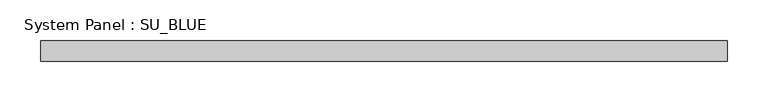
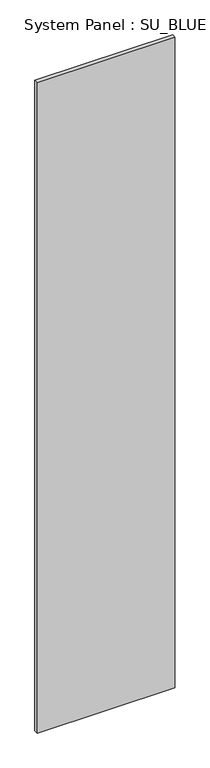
"""IFC4 building model written with IfcOpenShell, lengths in millimetres: plate geometry, System Panel : SU_BLUE."""

import ifcopenshell
import ifcopenshell.guid

model = None  # the IFC model being written
_history = None  # IfcOwnerHistory: only IFC2X3 demands one
_inside = {}  # id of a spatial element -> (the spatial element, [elements in it])
_under = {}  # id of a project, library or spatial element -> (it, [spatial elements below it])
_declared = {}  # id of a project -> (the project, [libraries it declares])
_typed = {}  # id of a type object -> (the type object, [elements of that type])
_made_of = {}  # id of a material, layer set ... -> (it, [elements and type objects made of it])


def new_model(schema):
    """Start an empty IFC model of exactly this schema.

    Asked for "IFC4X3", IfcOpenShell would pick the latest addendum, in which some entities
    have other attributes; the version numbers below select the first issue.
    IFC2X3 requires an IfcOwnerHistory on every rooted entity: one is made here for all.
    """
    global model, _history
    if schema == "IFC4X3":
        model = ifcopenshell.file(schema_version=(4, 3, 0, 0))
    else:
        model = ifcopenshell.file(schema=schema)
    _inside.clear()
    _under.clear()
    _declared.clear()
    _typed.clear()
    _made_of.clear()
    _history = None
    if model.schema == "IFC2X3":
        org = make("IfcOrganization", Name="unknown")
        user = make(
            "IfcPersonAndOrganization",
            ThePerson=make("IfcPerson", FamilyName="unknown"),
            TheOrganization=org,
        )
        app = make(
            "IfcApplication",
            ApplicationDeveloper=org,
            Version="unknown",
            ApplicationFullName="unknown",
            ApplicationIdentifier="unknown",
        )
        _history = make(
            "IfcOwnerHistory",
            OwningUser=user,
            OwningApplication=app,
            ChangeAction="ADDED",
            CreationDate=0,
        )
    return model


def make(cls, **values):
    """One entity of the class cls with the attributes given. An attribute that is None is left unset."""
    return model.create_entity(
        cls, **{name: value for name, value in values.items() if value is not None}
    )


def rooted(cls, **values):
    """An entity with a GlobalId (a new one), such as an element, a storey or a relation."""
    return make(cls, GlobalId=ifcopenshell.guid.new(), OwnerHistory=_history, **values)


def si_unit(unit_type, name, prefix=None):
    """IfcSIUnit, for example si_unit("LENGTHUNIT", "METRE", prefix="MILLI")."""
    return make("IfcSIUnit", UnitType=unit_type, Prefix=prefix, Name=name)


def assignment(units):
    """IfcUnitAssignment: the units of a project."""
    return None if units is None else make("IfcUnitAssignment", Units=units)


def point(xyz):
    """IfcCartesianPoint."""
    return None if xyz is None else make("IfcCartesianPoint", Coordinates=xyz)


def direction(xyz):
    """IfcDirection."""
    return None if xyz is None else make("IfcDirection", DirectionRatios=xyz)


def frame(location, z_axis=None, x_axis=None):
    """IfcAxis2Placement3D, a coordinate frame: its origin and axes. An axis left out is left unset."""
    return make(
        "IfcAxis2Placement3D",
        Location=point(location),
        Axis=direction(z_axis),
        RefDirection=direction(x_axis),
    )


def origin():
    """The frame at (0, 0, 0) with its axes left unset."""
    return frame((0.0, 0.0, 0.0))


def origin_with_axes():
    """The frame at (0, 0, 0) with the z axis (0, 0, 1) and the x axis (1, 0, 0) written out."""
    return frame((0.0, 0.0, 0.0), z_axis=(0.0, 0.0, 1.0), x_axis=(1.0, 0.0, 0.0))


def place(relative_to, where):
    """IfcLocalPlacement: puts the frame where relative to a parent placement (None: the world)."""
    return make(
        "IfcLocalPlacement", PlacementRelTo=relative_to, RelativePlacement=where
    )


def context(
    kind, dimensions, precision=None, world=None, true_north=None, identifier=None
):
    """IfcGeometricRepresentationContext, for example the 3D "Model" context."""
    return make(
        "IfcGeometricRepresentationContext",
        ContextIdentifier=identifier,
        ContextType=kind,
        CoordinateSpaceDimension=dimensions,
        Precision=precision,
        WorldCoordinateSystem=world,
        TrueNorth=true_north,
    )


def project(units=None, contexts=None):
    """IfcProject with its units and contexts."""
    return rooted(
        "IfcProject",
        Name="project",
        RepresentationContexts=contexts,
        UnitsInContext=assignment(units),
    )


def spatial(cls, under=None, at=None, **own):
    """A site, building, storey or space (cls), placed at a placement, below another one or the project."""
    s = rooted(cls, ObjectPlacement=at, **own)
    if under is not None:
        _under.setdefault(under.id(), (under, []))[1].append(s)
    return s


def polyline(points):
    """IfcPolyline through the points."""
    return make("IfcPolyline", Points=[point(p) for p in points])


def outline(outer, holes=None, kind="AREA"):
    """IfcArbitraryClosedProfileDef: a profile drawn as a closed curve; with holes, ...WithVoids."""
    if holes is None:
        return make("IfcArbitraryClosedProfileDef", ProfileType=kind, OuterCurve=outer)
    return make(
        "IfcArbitraryProfileDefWithVoids",
        ProfileType=kind,
        OuterCurve=outer,
        InnerCurves=holes,
    )


def extrude(swept, where, along, depth):
    """IfcExtrudedAreaSolid: the profile swept, set in the frame where, extruded along a direction by depth."""
    return make(
        "IfcExtrudedAreaSolid",
        SweptArea=swept,
        Position=where,
        ExtrudedDirection=direction(along),
        Depth=depth,
    )


def shape(context_of_items, identifier, shape_type, items):
    """IfcShapeRepresentation: the items that make up one representation, for example the "Body"."""
    return make(
        "IfcShapeRepresentation",
        ContextOfItems=context_of_items,
        RepresentationIdentifier=identifier,
        RepresentationType=shape_type,
        Items=items,
    )


def source(mapping_origin, context_of_items, identifier, shape_type, items):
    """IfcRepresentationMap: a shape defined once, which mapped items show again and again."""
    return make(
        "IfcRepresentationMap",
        MappingOrigin=mapping_origin,
        MappedRepresentation=shape(context_of_items, identifier, shape_type, items),
    )


def transform(
    local_origin,
    x_axis=None,
    y_axis=None,
    z_axis=None,
    scale=None,
    scale2=None,
    scale3=None,
    uniform=True,
):
    """IfcCartesianTransformationOperator3D, or its non-uniform kind. x_axis, y_axis, z_axis: its Axis1, 2, 3."""
    if uniform:
        return make(
            "IfcCartesianTransformationOperator3D",
            Axis1=direction(x_axis),
            Axis2=direction(y_axis),
            LocalOrigin=point(local_origin),
            Scale=scale,
            Axis3=direction(z_axis),
        )
    return make(
        "IfcCartesianTransformationOperator3DnonUniform",
        Axis1=direction(x_axis),
        Axis2=direction(y_axis),
        LocalOrigin=point(local_origin),
        Scale=scale,
        Axis3=direction(z_axis),
        Scale2=scale2,
        Scale3=scale3,
    )


def mapped(mapping_source, mapping_target):
    """IfcMappedItem: shows the shape of a source again, moved by a transform."""
    return make(
        "IfcMappedItem", MappingSource=mapping_source, MappingTarget=mapping_target
    )


def made_of(thing, what):
    """Note that an element or type object is made of a material, layer set ...; save() writes the relation."""
    if what is not None:
        _made_of.setdefault(what.id(), (what, []))[1].append(thing)
    return thing


def element(
    cls,
    number,
    at=None,
    inside=None,
    cuts=None,
    type_object=None,
    material=None,
    context=None,
    identifier="Body",
    shape_type=None,
    held_by="IfcProductDefinitionShape",
    body=None,
    shapes=None,
    **own,
):
    """One element of the class cls, such as IfcWall. Its Tag is "e" and its number.

    at: its placement. inside: the storey or other place that contains it. cuts: it is an
    opening in that element (IfcRelVoidsElement). A single representation is given by context,
    identifier, shape_type and body (its items); several are given by shapes. held_by: the class
    of the entity that holds the representations. save() writes the other relations.
    """
    e = rooted(cls, Tag="e%d" % number, ObjectPlacement=at, **own)
    if body is not None:
        shapes = [shape(context, identifier, shape_type, body)]
    if shapes is not None:
        e.Representation = make(held_by, Representations=shapes)
    if inside is not None:
        _inside.setdefault(inside.id(), (inside, []))[1].append(e)
    if cuts is not None:
        rooted(
            "IfcRelVoidsElement", RelatingBuildingElement=cuts, RelatedOpeningElement=e
        )
    if type_object is not None:
        _typed.setdefault(type_object.id(), (type_object, []))[1].append(e)
    return made_of(e, material)


def aggregate(whole, parts):
    """IfcRelAggregates: a whole, such as a stair, and the parts it consists of."""
    return rooted("IfcRelAggregates", RelatingObject=whole, RelatedObjects=parts)


def save(model, path):
    """Write the relations noted so far, then the file.

    IfcRelAggregates (storeys below a building ...), IfcRelContainedInSpatialStructure (elements
    in a storey), IfcRelDefinesByType, IfcRelAssociatesMaterial and IfcRelDeclares: one each for
    every whole, place, type object, material and project.
    """
    for whole, parts in _under.values():
        aggregate(whole, parts)
    for where, things in _inside.values():
        rooted(
            "IfcRelContainedInSpatialStructure",
            RelatedElements=things,
            RelatingStructure=where,
        )
    for kind, things in _typed.values():
        rooted("IfcRelDefinesByType", RelatedObjects=things, RelatingType=kind)
    for what, things in _made_of.values():
        rooted("IfcRelAssociatesMaterial", RelatedObjects=things, RelatingMaterial=what)
    for by, libraries in _declared.values():
        rooted("IfcRelDeclares", RelatingContext=by, RelatedDefinitions=libraries)
    model.write(path)


def system_panel_su_blue_751729b9(model_context):
    return source(origin(), model_context, "Body", "SweptSolid", [
        extrude(outline(polyline([(420.7943243, 19.05), (-420.7943243, 19.05), (-420.7943243, 44.45), (420.7943243, 44.45), (420.7943243, 19.05)])), origin_with_axes(), (0.0, 0.0, 1.0), 4203.7),
    ])


if __name__ == "__main__":
    model = new_model("IFC4")
    model_context = context("Model", 3, world=origin())
    ifc_project = project(units=[si_unit("LENGTHUNIT", "METRE", prefix="MILLI")], contexts=[model_context])
    site = spatial("IfcSite", under=ifc_project)
    building = spatial("IfcBuilding", under=site)
    placement = place(None, origin())
    system_panel_su_blue_shape = system_panel_su_blue_751729b9(model_context)
    element("IfcPlate", 1, ObjectType="System Panel : SU_BLUE", at=placement, inside=building, context=model_context, shape_type="MappedRepresentation", body=[
        mapped(system_panel_su_blue_shape, transform((0.0, 0.0, 0.0), x_axis=(1.0, 0.0, 0.0), y_axis=(0.0, 1.0, 0.0), z_axis=(0.0, 0.0, 1.0))),
    ])
    save(model, "model.ifc")
